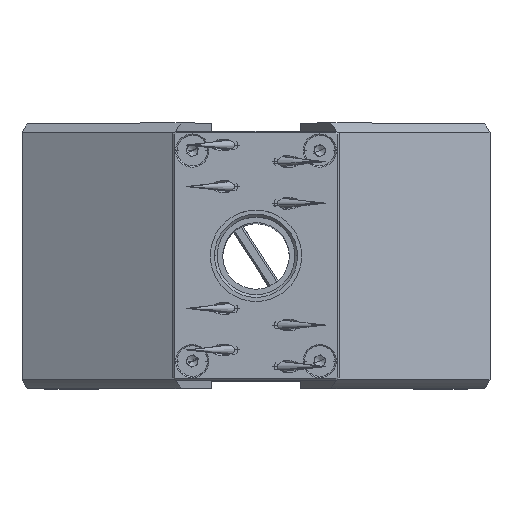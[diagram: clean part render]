
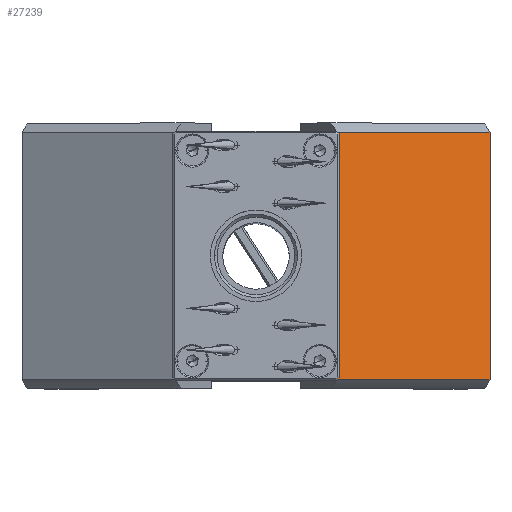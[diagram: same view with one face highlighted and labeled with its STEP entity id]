
A CAD part, top view. The second image highlights one B-rep face of the part: STEP entity #27239.
In plain terms, the highlighted planar face has unit normal (0.5, 0, 0.866).
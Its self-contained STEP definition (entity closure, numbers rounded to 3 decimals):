
#127 = DIRECTION ( 'NONE',  ( 0., -1., 0. ) ) ;
#481 = ORIENTED_EDGE ( 'NONE', *, *, #19960, .T. ) ;
#4336 = LINE ( 'NONE', #26441, #13615 ) ;
#6238 = FACE_OUTER_BOUND ( 'NONE', #12211, .T. ) ;
#6275 = EDGE_CURVE ( 'NONE', #36926, #24773, #4336, .T. ) ;
#6597 = LINE ( 'NONE', #22082, #12943 ) ;
#6834 = VERTEX_POINT ( 'NONE', #38450 ) ;
#7657 = DIRECTION ( 'NONE',  ( -0.866, 0., 0.5 ) ) ;
#11169 = CARTESIAN_POINT ( 'NONE',  ( -207.748, -24., -20.899 ) ) ;
#11976 = ORIENTED_EDGE ( 'NONE', *, *, #16767, .F. ) ;
#12211 = EDGE_LOOP ( 'NONE', ( #36529, #481, #11976, #28537 ) ) ;
#12768 = CARTESIAN_POINT ( 'NONE',  ( -235.461, -22.361, -4.899 ) ) ;
#12943 = VECTOR ( 'NONE', #127, 1000. ) ;
#13615 = VECTOR ( 'NONE', #29599, 1000. ) ;
#16240 = VECTOR ( 'NONE', #7657, 1000. ) ;
#16560 = VERTEX_POINT ( 'NONE', #12768 ) ;
#16767 = EDGE_CURVE ( 'NONE', #6834, #16560, #35942, .T. ) ;
#17227 = AXIS2_PLACEMENT_3D ( 'NONE', #37136, #18341, #40225 ) ;
#18341 = DIRECTION ( 'NONE',  ( 0.5, 0., 0.866 ) ) ;
#19960 = EDGE_CURVE ( 'NONE', #24773, #16560, #6597, .T. ) ;
#20145 = CARTESIAN_POINT ( 'NONE',  ( -205.509, -22.361, -22.192 ) ) ;
#22082 = CARTESIAN_POINT ( 'NONE',  ( -235.461, -24., -4.899 ) ) ;
#24506 = PLANE ( 'NONE',  #17227 ) ;
#24773 = VERTEX_POINT ( 'NONE', #34176 ) ;
#26441 = CARTESIAN_POINT ( 'NONE',  ( -205.509, 22.361, -22.192 ) ) ;
#27239 = ADVANCED_FACE ( 'NONE', ( #6238 ), #24506, .T. ) ;
#28537 = ORIENTED_EDGE ( 'NONE', *, *, #30029, .T. ) ;
#29599 = DIRECTION ( 'NONE',  ( -0.866, 0., 0.5 ) ) ;
#30029 = EDGE_CURVE ( 'NONE', #6834, #36926, #38063, .T. ) ;
#30734 = VECTOR ( 'NONE', #39509, 1000. ) ;
#34176 = CARTESIAN_POINT ( 'NONE',  ( -235.461, 22.361, -4.899 ) ) ;
#35642 = CARTESIAN_POINT ( 'NONE',  ( -207.748, 22.361, -20.899 ) ) ;
#35942 = LINE ( 'NONE', #20145, #16240 ) ;
#36529 = ORIENTED_EDGE ( 'NONE', *, *, #6275, .T. ) ;
#36926 = VERTEX_POINT ( 'NONE', #35642 ) ;
#37136 = CARTESIAN_POINT ( 'NONE',  ( -221.605, 0., -12.899 ) ) ;
#38063 = LINE ( 'NONE', #11169, #30734 ) ;
#38450 = CARTESIAN_POINT ( 'NONE',  ( -207.748, -22.361, -20.899 ) ) ;
#39509 = DIRECTION ( 'NONE',  ( 0., 1., 0. ) ) ;
#40225 = DIRECTION ( 'NONE',  ( -0.866, 0., 0.5 ) ) ;
